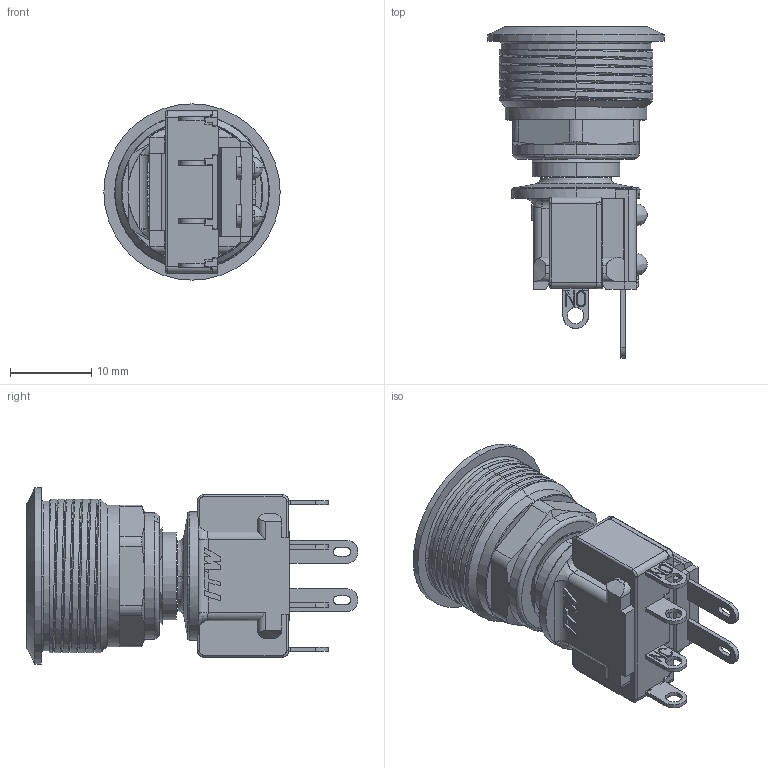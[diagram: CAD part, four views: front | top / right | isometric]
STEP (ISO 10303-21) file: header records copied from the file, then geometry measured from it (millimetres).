
FILE_DESCRIPTION (( 'STEP AP214' ), '1' );
FILE_NAME ('H48M-112XXX-4044 & H48M-212XXX-4044.STEP', '2017-11-06T14:19:56', ( 'Admin' ), ( 'Microsoft' ), 'SwSTEP 2.0', 'SolidWorks 2016', '' );
FILE_SCHEMA (( 'AUTOMOTIVE_DESIGN' ));
Length unit declared in the file: millimetre
Products named in the file (2): H48M-112XXX-4044 & H48M-212XXX-4044
Bounding box: 21.65 x 40.75 x 21.65 mm (x, y, z)
Surface area: 5220.2 mm2 (no closed solid volume)
Topology: 0 solids, 16 shells, 454 faces, 2063 edges, 1580 vertices
Faces by surface type: plane 246, cylinder 123, bspline 66, cone 19
Entity records: 33080 total; most frequent: CARTESIAN_POINT 14510, ORIENTED_EDGE 3055, DIRECTION 2555, EDGE_CURVE 2055, VERTEX_POINT 1580, VECTOR 1285, LINE 1285, AXIS2_PLACEMENT_3D 635
